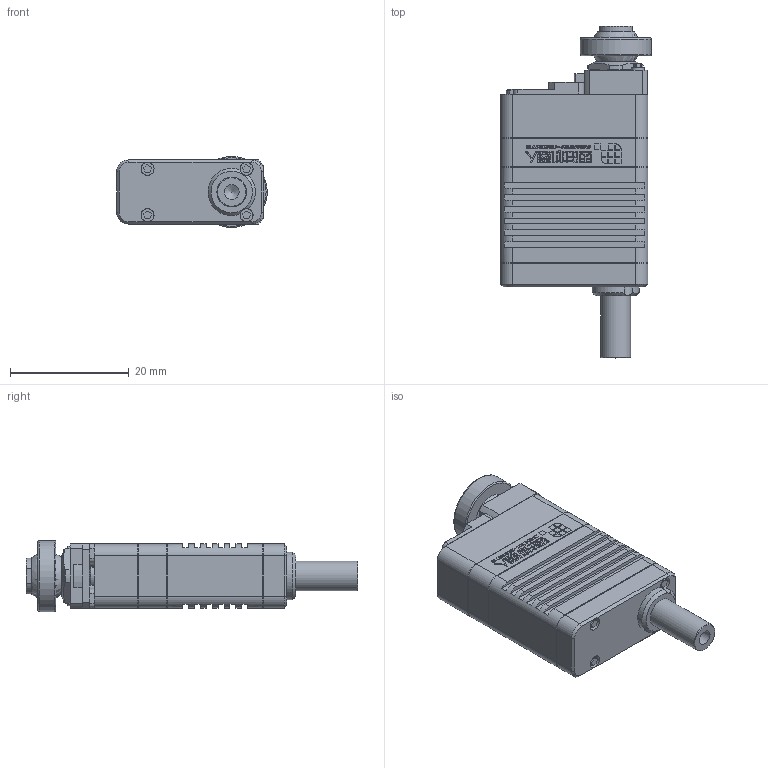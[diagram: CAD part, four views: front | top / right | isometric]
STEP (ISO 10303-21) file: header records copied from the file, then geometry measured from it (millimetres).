
FILE_DESCRIPTION (( 'STEP AP203' ), '1' );
FILE_NAME ('LASF10-0x4D-1201.STEP', '2023-12-01T09:48:50', ( '' ), ( '' ), '' );
FILE_SCHEMA (( 'CONFIG_CONTROL_DESIGN' ));
Length unit declared in the file: millimetre
Products named in the file (4): NSK-GE4C外圈; exA820109-015祥凄詩杶奪; 錨璃18^LASF10-0x4D; LASF10-0x4D-1201
Assembly tree (3 placements, depth 2):
  LASF10-0x4D-1201
    exA820109-015祥凄詩杶奪
    NSK-GE4C外圈
    錨璃18^LASF10-0x4D
Bounding box: 25.4 x 56 x 12 mm (x, y, z)
Volume: 9592.9 mm3; surface area: 4631.9 mm2
Topology: 3 solids, 8 shells, 1374 faces, 3634 edges, 2389 vertices
Faces by surface type: plane 831, bspline 416, cylinder 68, cone 45, torus 12, sphere 2
Full cylindrical faces by diameter (mm): 1.2 x2, 1.8 x2, 2 x2, 2.05 x1, 2.17 x6, 2.2 x4, 2.4 x3, 2.5 x2, 2.6 x2, 3.3 x1, 4 x2, 5 x2, 12 x1
Entity records: 44394 total; most frequent: CARTESIAN_POINT 12982, ORIENTED_EDGE 7122, DIRECTION 4890, EDGE_CURVE 3561, LINE 2444, VECTOR 2444, VERTEX_POINT 2363, EDGE_LOOP 1542
